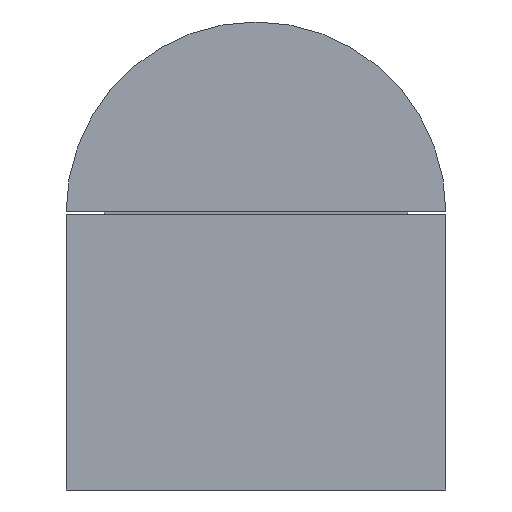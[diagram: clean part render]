
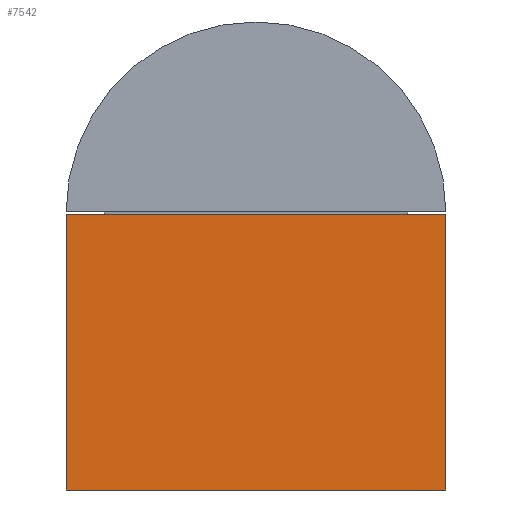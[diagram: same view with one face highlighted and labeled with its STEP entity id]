
A CAD part, front view. The second image highlights one B-rep face of the part: STEP entity #7542.
In plain terms, the highlighted planar face has unit normal (0, -1, 0).
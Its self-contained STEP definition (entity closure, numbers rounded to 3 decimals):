
#434=PLANE('',#8107);
#839=FACE_OUTER_BOUND('',#1259,.T.);
#1259=EDGE_LOOP('',(#6890,#6891,#6892,#6893));
#2084=LINE('',#12300,#2971);
#2085=LINE('',#12302,#2972);
#2086=LINE('',#12304,#2973);
#2087=LINE('',#12305,#2974);
#2971=VECTOR('',#9941,10.);
#2972=VECTOR('',#9942,10.);
#2973=VECTOR('',#9943,10.);
#2974=VECTOR('',#9944,10.);
#3818=VERTEX_POINT('',#12298);
#3819=VERTEX_POINT('',#12299);
#3820=VERTEX_POINT('',#12301);
#3821=VERTEX_POINT('',#12303);
#4854=EDGE_CURVE('',#3818,#3819,#2084,.T.);
#4855=EDGE_CURVE('',#3819,#3820,#2085,.T.);
#4856=EDGE_CURVE('',#3820,#3821,#2086,.T.);
#4857=EDGE_CURVE('',#3821,#3818,#2087,.T.);
#6890=ORIENTED_EDGE('',*,*,#4854,.T.);
#6891=ORIENTED_EDGE('',*,*,#4855,.T.);
#6892=ORIENTED_EDGE('',*,*,#4856,.T.);
#6893=ORIENTED_EDGE('',*,*,#4857,.T.);
#7542=ADVANCED_FACE('',(#839),#434,.T.);
#8107=AXIS2_PLACEMENT_3D('',#12297,#9939,#9940);
#9939=DIRECTION('center_axis',(0.,-1.,0.));
#9940=DIRECTION('ref_axis',(0.,0.,-1.));
#9941=DIRECTION('',(-1.,0.,0.));
#9942=DIRECTION('',(0.,0.,-1.));
#9943=DIRECTION('',(1.,0.,0.));
#9944=DIRECTION('',(0.,0.,1.));
#12297=CARTESIAN_POINT('Origin',(400.,-82.,-7.5));
#12298=CARTESIAN_POINT('',(432.25,-82.,-0.5));
#12299=CARTESIAN_POINT('',(367.75,-82.,-0.5));
#12300=CARTESIAN_POINT('',(416.125,-82.,-0.5));
#12301=CARTESIAN_POINT('',(367.75,-82.,-47.25));
#12302=CARTESIAN_POINT('',(367.75,-82.,-4.));
#12303=CARTESIAN_POINT('',(432.25,-82.,-47.25));
#12304=CARTESIAN_POINT('',(383.875,-82.,-47.25));
#12305=CARTESIAN_POINT('',(432.25,-82.,-27.375));
